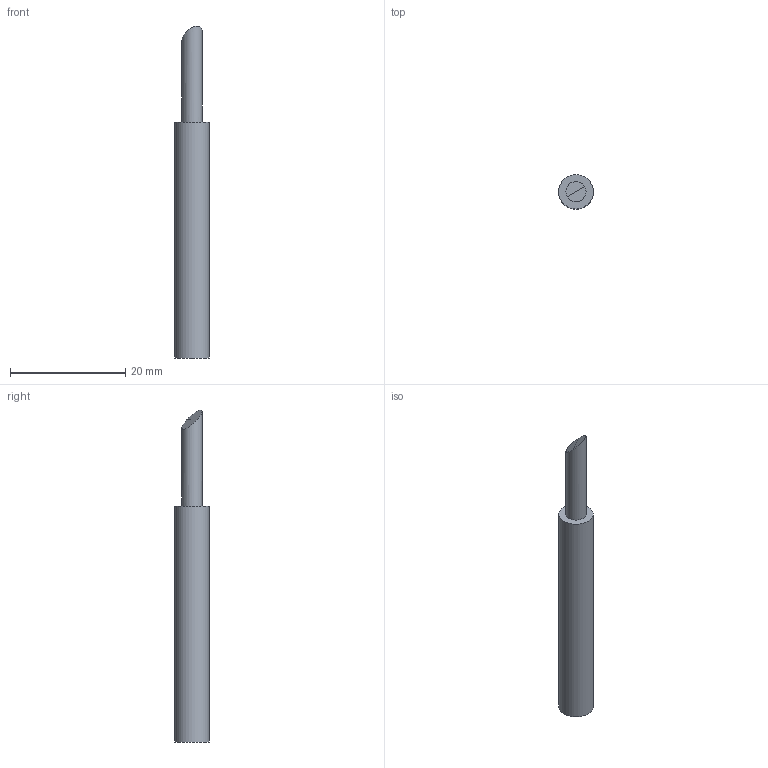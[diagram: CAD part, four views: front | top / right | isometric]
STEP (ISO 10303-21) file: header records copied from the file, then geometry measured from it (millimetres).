
FILE_DESCRIPTION((''),'2;1');
FILE_NAME('C:\Vault_local\Designs\Stock\3D pour clients\préparations\2D3D 512 A.stp','2009-08-05T14:10:20',('Georges THOLLOT ','Responsable ','Mthodes et Industrialisation',' Tl : +33 (0)4 77 53 90 27','gthollot@celduc.com'),('Celduc r e l a i s','5, rue Ampre, BP 30004','42290 SORBIERS - France','Fax. : +33 (0)4 77 53 85 51','N siret 353 310 519 00015','ISO 9001 N QUAL/1993/1106b','www.celduc.com'),'Autodesk Inventor 2009','Autodesk Inventor 2009','');
FILE_SCHEMA(('AUTOMOTIVE_DESIGN { 1 0 10303 214 1 1 1 1 }'));
Length unit declared in the file: millimetre
Products named in the file (1): PTABC1 Ø6 L41
Bounding box: 6 x 6 x 57.7 mm (x, y, z)
Volume: 1303.6 mm3; surface area: 998.1 mm2
Topology: 1 solids, 1 shells, 6 faces, 9 edges, 6 vertices
Faces by surface type: plane 4, cylinder 2
Full cylindrical faces by diameter (mm): 3.5 x1, 6 x1
Entity records: 157 total; most frequent: DIRECTION 25, CARTESIAN_POINT 18, AXIS2_PLACEMENT_3D 12, ORIENTED_EDGE 12, EDGE_LOOP 9, EDGE_CURVE 6, FACE_OUTER_BOUND 6, ADVANCED_FACE 6
